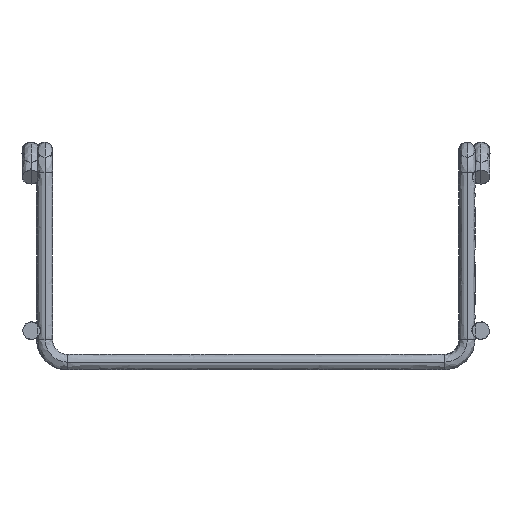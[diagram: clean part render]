
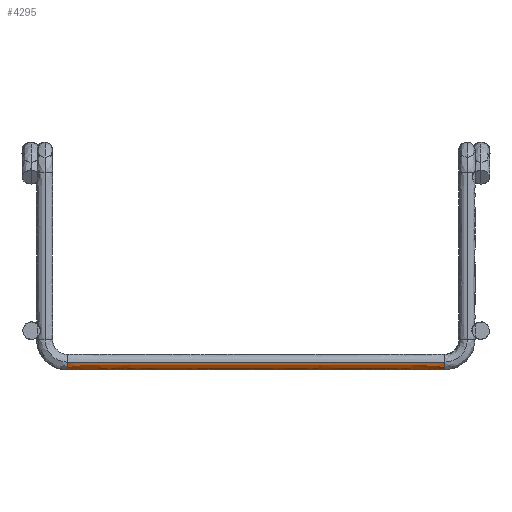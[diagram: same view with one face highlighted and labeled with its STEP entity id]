
A CAD part, front view. The second image highlights one B-rep face of the part: STEP entity #4295.
In plain terms, the highlighted free-form (B-spline) face has degree [2, 3] with [5, 4] control points.
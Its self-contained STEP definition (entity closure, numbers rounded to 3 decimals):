
#4295=ADVANCED_FACE($,(#4911),#11589,.T.);
#4911=FACE_OUTER_BOUND($,#5527,.T.);
#5527=EDGE_LOOP($,(#6428,#6429,#6430,#6431));
#6428=ORIENTED_EDGE($,*,*,#8773,.T.);
#6429=ORIENTED_EDGE($,*,*,#8771,.F.);
#6430=ORIENTED_EDGE($,*,*,#8770,.F.);
#6431=ORIENTED_EDGE($,*,*,#8775,.F.);
#8770=EDGE_CURVE($,#10508,#10509,#12008,.T.);
#8771=EDGE_CURVE($,#10509,#10511,#12009,.T.);
#8773=EDGE_CURVE($,#10510,#10511,#12011,.T.);
#8775=EDGE_CURVE($,#10510,#10508,#12013,.T.);
#10508=VERTEX_POINT($,#18090);
#10509=VERTEX_POINT($,#18091);
#10510=VERTEX_POINT($,#18092);
#10511=VERTEX_POINT($,#18093);
#11589=(
BOUNDED_SURFACE()
B_SPLINE_SURFACE(2,3,((#18070,#18071,#18072,#18073),(#18074,#18075,#18076,
#18077),(#18078,#18079,#18080,#18081),(#18082,#18083,#18084,#18085),(#18086,
#18087,#18088,#18089)),.UNSPECIFIED.,.F.,.F.,.F.)
B_SPLINE_SURFACE_WITH_KNOTS((3,2,3),(4,4),(-10.996,-8.247,
-5.498),(0.,84.),.UNSPECIFIED.)
GEOMETRIC_REPRESENTATION_ITEM()
RATIONAL_B_SPLINE_SURFACE(((1.,1.,1.,1.),(0.707,0.707,
0.707,0.707),(1.,1.,1.,1.),(0.707,0.707,
0.707,0.707),(1.,1.,1.,1.)))
REPRESENTATION_ITEM($)
SURFACE()
);
#12008=(
BOUNDED_CURVE()
B_SPLINE_CURVE(3,(#18022,#18023,#18024,#18025),.UNSPECIFIED.,.F.,.F.)
B_SPLINE_CURVE_WITH_KNOTS((4,4),(0.,84.),.UNSPECIFIED.)
CURVE()
GEOMETRIC_REPRESENTATION_ITEM()
RATIONAL_B_SPLINE_CURVE((1.,1.,1.,1.))
REPRESENTATION_ITEM($)
);
#12009=(
BOUNDED_CURVE()
B_SPLINE_CURVE(2,(#18026,#18027,#18028,#18029,#18030),.UNSPECIFIED.,.F.,
.F.)
B_SPLINE_CURVE_WITH_KNOTS((3,2,3),(-10.996,-8.247,-5.498),
.UNSPECIFIED.)
CURVE()
GEOMETRIC_REPRESENTATION_ITEM()
RATIONAL_B_SPLINE_CURVE((1.,0.707,1.,0.707,1.))
REPRESENTATION_ITEM($)
);
#12011=(
BOUNDED_CURVE()
B_SPLINE_CURVE(3,(#18036,#18037,#18038,#18039),.UNSPECIFIED.,.F.,.F.)
B_SPLINE_CURVE_WITH_KNOTS((4,4),(0.,84.),.UNSPECIFIED.)
CURVE()
GEOMETRIC_REPRESENTATION_ITEM()
RATIONAL_B_SPLINE_CURVE((1.,1.,1.,1.))
REPRESENTATION_ITEM($)
);
#12013=(
BOUNDED_CURVE()
B_SPLINE_CURVE(2,(#18045,#18046,#18047,#18048,#18049),.UNSPECIFIED.,.F.,
.F.)
B_SPLINE_CURVE_WITH_KNOTS((3,2,3),(5.498,8.247,10.996),
.UNSPECIFIED.)
CURVE()
GEOMETRIC_REPRESENTATION_ITEM()
RATIONAL_B_SPLINE_CURVE((1.,0.707,1.,0.707,1.))
REPRESENTATION_ITEM($)
);
#18022=CARTESIAN_POINT($,(5.119,0.17,0.));
#18023=CARTESIAN_POINT($,(33.119,0.17,0.));
#18024=CARTESIAN_POINT($,(61.119,0.17,0.));
#18025=CARTESIAN_POINT($,(89.119,0.17,0.));
#18026=CARTESIAN_POINT($,(89.119,0.17,0.));
#18027=CARTESIAN_POINT($,(89.119,0.17,-1.75));
#18028=CARTESIAN_POINT($,(89.119,1.92,-1.75));
#18029=CARTESIAN_POINT($,(89.119,3.67,-1.75));
#18030=CARTESIAN_POINT($,(89.119,3.67,0.));
#18036=CARTESIAN_POINT($,(5.119,3.67,0.));
#18037=CARTESIAN_POINT($,(33.119,3.67,0.));
#18038=CARTESIAN_POINT($,(61.119,3.67,0.));
#18039=CARTESIAN_POINT($,(89.119,3.67,0.));
#18045=CARTESIAN_POINT($,(5.119,3.67,0.));
#18046=CARTESIAN_POINT($,(5.119,3.67,-1.75));
#18047=CARTESIAN_POINT($,(5.119,1.92,-1.75));
#18048=CARTESIAN_POINT($,(5.119,0.17,-1.75));
#18049=CARTESIAN_POINT($,(5.119,0.17,0.));
#18070=CARTESIAN_POINT($,(5.119,0.17,0.));
#18071=CARTESIAN_POINT($,(33.119,0.17,0.));
#18072=CARTESIAN_POINT($,(61.119,0.17,0.));
#18073=CARTESIAN_POINT($,(89.119,0.17,0.));
#18074=CARTESIAN_POINT($,(5.119,0.17,-1.75));
#18075=CARTESIAN_POINT($,(33.119,0.17,-1.75));
#18076=CARTESIAN_POINT($,(61.119,0.17,-1.75));
#18077=CARTESIAN_POINT($,(89.119,0.17,-1.75));
#18078=CARTESIAN_POINT($,(5.119,1.92,-1.75));
#18079=CARTESIAN_POINT($,(33.119,1.92,-1.75));
#18080=CARTESIAN_POINT($,(61.119,1.92,-1.75));
#18081=CARTESIAN_POINT($,(89.119,1.92,-1.75));
#18082=CARTESIAN_POINT($,(5.119,3.67,-1.75));
#18083=CARTESIAN_POINT($,(33.119,3.67,-1.75));
#18084=CARTESIAN_POINT($,(61.119,3.67,-1.75));
#18085=CARTESIAN_POINT($,(89.119,3.67,-1.75));
#18086=CARTESIAN_POINT($,(5.119,3.67,0.));
#18087=CARTESIAN_POINT($,(33.119,3.67,0.));
#18088=CARTESIAN_POINT($,(61.119,3.67,0.));
#18089=CARTESIAN_POINT($,(89.119,3.67,0.));
#18090=CARTESIAN_POINT($,(5.119,0.17,0.));
#18091=CARTESIAN_POINT($,(89.119,0.17,0.));
#18092=CARTESIAN_POINT($,(5.119,3.67,0.));
#18093=CARTESIAN_POINT($,(89.119,3.67,0.));
